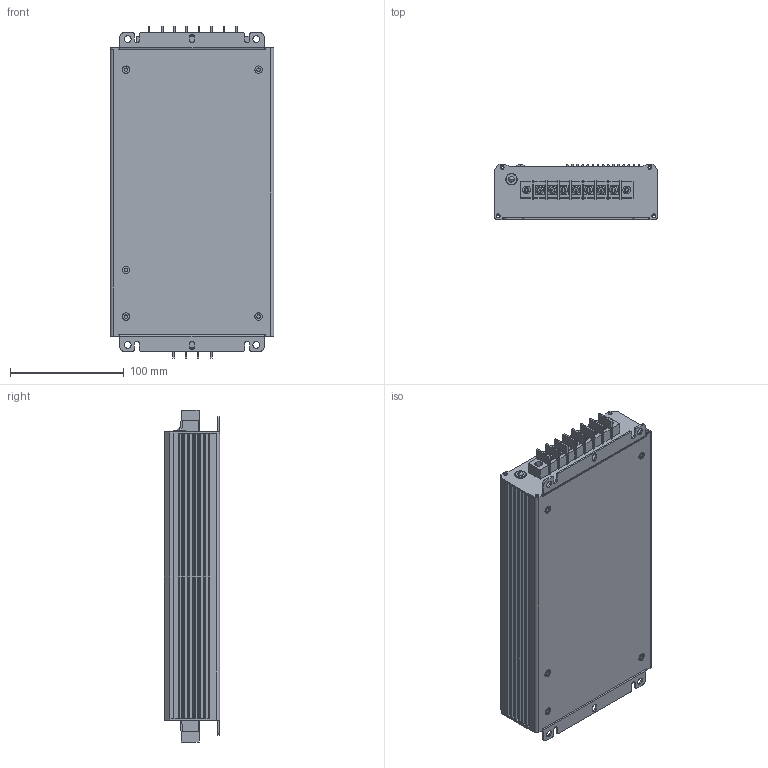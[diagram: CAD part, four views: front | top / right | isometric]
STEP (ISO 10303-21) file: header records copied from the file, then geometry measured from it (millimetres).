
FILE_DESCRIPTION(('OneSpaceDesigner STEP Export'),'2;1');
FILE_NAME('HEP-600.stp','2014-10-24T14:44:24',(''),(''),'OneSpace Designer STEP processor for AP214 (Solid Model)','OneSpace Designer 13.20 11-May-2005 (C) CoCreate Software GmbH','');
FILE_SCHEMA(('AUTOMOTIVE_DESIGN { 1 0 10303 214 1 1 1 1 }'));
Length unit declared in the file: millimetre
Products named in the file (14): Vol1.1.1; pcb; RD0801007.1; kk; M3-7L.1.1.1; ¤W»\.4.2.1; ©³®y; ¤U»\; a3; ºÝ¤l; ºÝ¤l.1; TLED-05_w_p____; a1; HEP-600
Assembly tree (19 placements, depth 6):
  HEP-600
    a1
      TLED-05_w_p____
      ºÝ¤l.1
      ºÝ¤l
      RD0801007.1  x2
      a3
        ¤U»\
          ©³®y
            M3-7L.1.1.1  x5
            ¤W»\.4.2.1
        kk
      pcb
      Vol1.1.1  x2
Bounding box: 144 x 48.5 x 291.79 mm (x, y, z)
Volume: 349797.6 mm3; surface area: 334891.9 mm2
Topology: 14 solids, 14 shells, 1301 faces, 3331 edges, 2131 vertices
Faces by surface type: plane 885, cylinder 310, torus 38, cone 34, bspline 28, sphere 6
Entity records: 37979 total; most frequent: CARTESIAN_POINT 8375, ORIENTED_EDGE 6062, DIRECTION 4781, EDGE_CURVE 3029, VECTOR 2029, LINE 2029, VERTEX_POINT 1936, AXIS2_PLACEMENT_3D 1376
